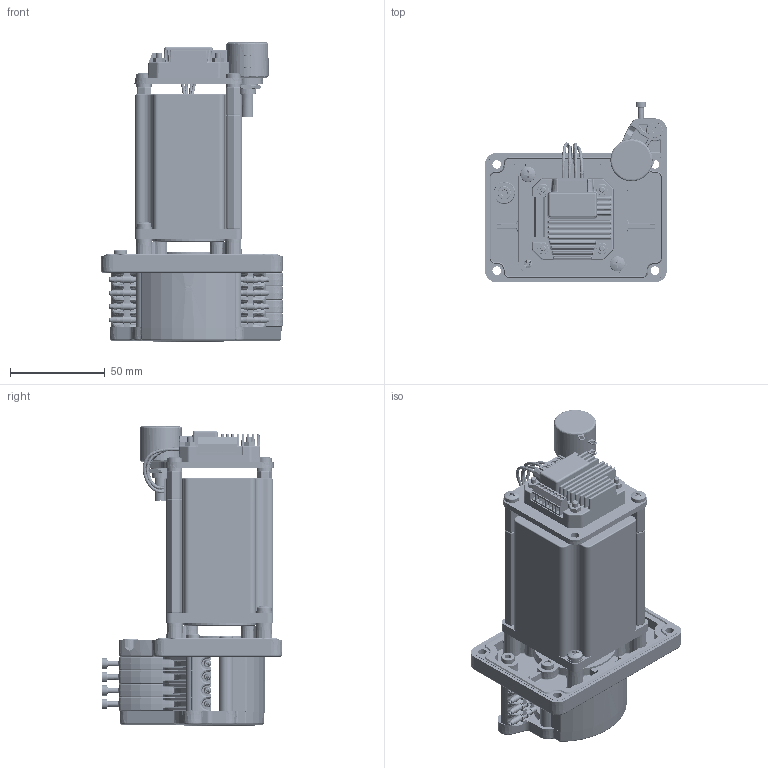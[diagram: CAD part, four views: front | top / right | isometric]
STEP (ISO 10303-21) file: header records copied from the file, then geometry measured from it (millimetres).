
FILE_DESCRIPTION (( 'STEP AP214' ), '1' );
FILE_NAME ('Assy_6K6001_A4p_R00.STEP', '2026-09-24T12:03:37', ( '' ), ( '' ), 'SwSTEP 2.0', 'SolidWorks 2021', '' );
FILE_SCHEMA (( 'AUTOMOTIVE_DESIGN' ));
Length unit declared in the file: millimetre
Products named in the file (1): Assy_6K6001_A4p_R00
Bounding box: 95.89 x 95.23 x 157.65 mm (x, y, z)
Volume: 356416.2 mm3; surface area: 115537 mm2
Topology: 11 solids, 36 shells, 4239 faces, 10067 edges, 5993 vertices
Faces by surface type: plane 1536, cylinder 1134, bspline 635, cone 423, torus 292, sphere 219
Full cylindrical faces by diameter (mm): 1.5 x8, 1.6 x2, 1.65 x2, 1.8 x8, 2 x4, 2.2 x8, 2.5 x1, 2.7 x4, 2.8 x4, 3 x14, 3.2 x10, 3.4 x2, 3.96 x3, 4 x2, 4.022 x2, 4.2 x3, 4.5 x7, 5 x4, 5.5 x4, 6.33 x1, 6.5 x4, 7.5 x10, 8 x4, 8.55 x4, 8.6 x1, 9.35 x1, 10 x1, 10.605 x1, 14.22 x1, 22.22 x1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
Entity records: 144047 total; most frequent: CARTESIAN_POINT 54654, ORIENTED_EDGE 19330, DIRECTION 17300, EDGE_CURVE 9665, AXIS2_PLACEMENT_3D 6561, VERTEX_POINT 5863, EDGE_LOOP 4714, FACE_OUTER_BOUND 4387
